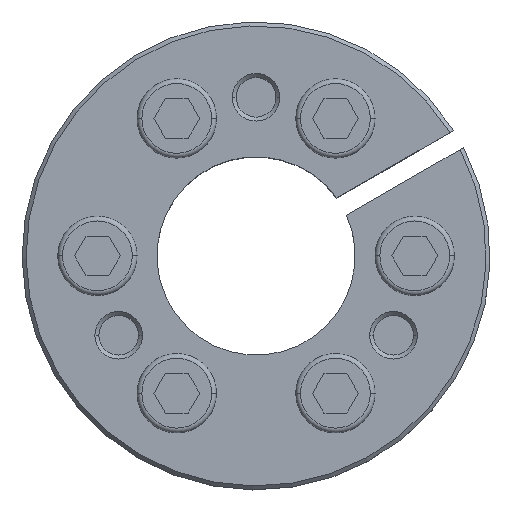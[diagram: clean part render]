
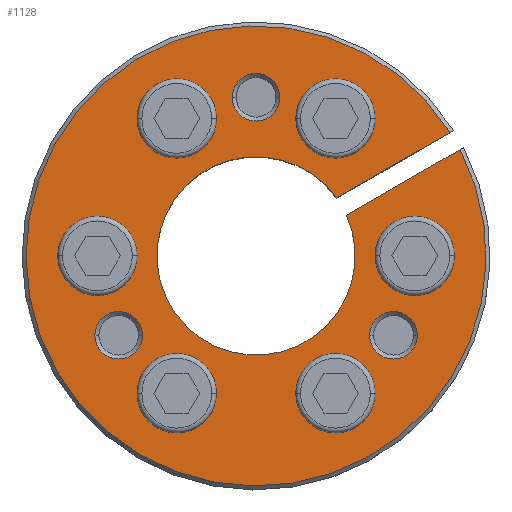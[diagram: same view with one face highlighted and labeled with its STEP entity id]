
A CAD part, top view. The second image highlights one B-rep face of the part: STEP entity #1128.
In plain terms, the highlighted planar face has unit normal (0, 0, 1).
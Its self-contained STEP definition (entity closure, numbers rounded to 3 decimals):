
#206=CARTESIAN_POINT('',(20.,0.,6.));
#207=DIRECTION('',(0.,0.,1.));
#208=DIRECTION('',(1.,0.,0.));
#209=AXIS2_PLACEMENT_3D('',#206,#207,#208);
#214=CARTESIAN_POINT('',(20.,0.,6.));
#215=DIRECTION('',(0.,0.,1.));
#216=DIRECTION('',(-1.,0.,0.));
#217=AXIS2_PLACEMENT_3D('',#214,#215,#216);
#222=CARTESIAN_POINT('',(10.,17.321,6.));
#223=DIRECTION('',(0.,0.,1.));
#224=DIRECTION('',(1.,0.,0.));
#225=AXIS2_PLACEMENT_3D('',#222,#223,#224);
#230=CARTESIAN_POINT('',(10.,17.321,6.));
#231=DIRECTION('',(0.,0.,1.));
#232=DIRECTION('',(-1.,0.,0.));
#233=AXIS2_PLACEMENT_3D('',#230,#231,#232);
#238=CARTESIAN_POINT('',(-10.,17.321,6.));
#239=DIRECTION('',(0.,0.,1.));
#240=DIRECTION('',(1.,0.,0.));
#241=AXIS2_PLACEMENT_3D('',#238,#239,#240);
#246=CARTESIAN_POINT('',(-10.,17.321,6.));
#247=DIRECTION('',(0.,0.,1.));
#248=DIRECTION('',(-1.,0.,0.));
#249=AXIS2_PLACEMENT_3D('',#246,#247,#248);
#254=CARTESIAN_POINT('',(-20.,0.,6.));
#255=DIRECTION('',(0.,0.,1.));
#256=DIRECTION('',(1.,0.,0.));
#257=AXIS2_PLACEMENT_3D('',#254,#255,#256);
#262=CARTESIAN_POINT('',(-20.,0.,6.));
#263=DIRECTION('',(0.,0.,1.));
#264=DIRECTION('',(-1.,0.,0.));
#265=AXIS2_PLACEMENT_3D('',#262,#263,#264);
#270=CARTESIAN_POINT('',(-10.,-17.321,6.));
#271=DIRECTION('',(0.,0.,1.));
#272=DIRECTION('',(1.,0.,0.));
#273=AXIS2_PLACEMENT_3D('',#270,#271,#272);
#278=CARTESIAN_POINT('',(-10.,-17.321,6.));
#279=DIRECTION('',(0.,0.,1.));
#280=DIRECTION('',(-1.,0.,0.));
#281=AXIS2_PLACEMENT_3D('',#278,#279,#280);
#286=CARTESIAN_POINT('',(10.,-17.321,6.));
#287=DIRECTION('',(0.,0.,1.));
#288=DIRECTION('',(1.,0.,0.));
#289=AXIS2_PLACEMENT_3D('',#286,#287,#288);
#294=CARTESIAN_POINT('',(10.,-17.321,6.));
#295=DIRECTION('',(0.,0.,1.));
#296=DIRECTION('',(-1.,0.,0.));
#297=AXIS2_PLACEMENT_3D('',#294,#295,#296);
#302=CARTESIAN_POINT('',(0.,20.,6.));
#303=DIRECTION('',(0.,0.,-1.));
#304=DIRECTION('',(-1.,0.,0.));
#305=AXIS2_PLACEMENT_3D('',#302,#303,#304);
#310=CARTESIAN_POINT('',(0.,20.,6.));
#311=DIRECTION('',(0.,0.,-1.));
#312=DIRECTION('',(1.,0.,0.));
#313=AXIS2_PLACEMENT_3D('',#310,#311,#312);
#318=CARTESIAN_POINT('',(-17.321,-10.,6.));
#319=DIRECTION('',(0.,0.,-1.));
#320=DIRECTION('',(-1.,0.,0.));
#321=AXIS2_PLACEMENT_3D('',#318,#319,#320);
#326=CARTESIAN_POINT('',(-17.321,-10.,6.));
#327=DIRECTION('',(0.,0.,-1.));
#328=DIRECTION('',(1.,0.,0.));
#329=AXIS2_PLACEMENT_3D('',#326,#327,#328);
#334=CARTESIAN_POINT('',(17.321,-10.,6.));
#335=DIRECTION('',(0.,0.,-1.));
#336=DIRECTION('',(-1.,0.,0.));
#337=AXIS2_PLACEMENT_3D('',#334,#335,#336);
#342=CARTESIAN_POINT('',(17.321,-10.,6.));
#343=DIRECTION('',(0.,0.,-1.));
#344=DIRECTION('',(1.,0.,0.));
#345=AXIS2_PLACEMENT_3D('',#342,#343,#344);
#350=DIRECTION('',(0.866,0.5,0.));
#351=VECTOR('',#350,16.536);
#352=CARTESIAN_POINT('',(11.396,5.136,6.));
#353=LINE('',#352,#351);
#357=DIRECTION('',(-0.866,-0.5,0.));
#358=VECTOR('',#357,16.536);
#359=CARTESIAN_POINT('',(24.466,15.569,6.));
#360=LINE('',#359,#358);
#670=CARTESIAN_POINT('',(0.,0.,6.));
#671=DIRECTION('',(0.,0.,-1.));
#672=DIRECTION('',(0.912,0.411,0.));
#673=AXIS2_PLACEMENT_3D('',#670,#671,#672);
#718=CARTESIAN_POINT('',(0.,0.,6.));
#719=DIRECTION('',(0.,0.,1.));
#720=DIRECTION('',(0.844,0.537,0.));
#721=AXIS2_PLACEMENT_3D('',#718,#719,#720);
#822=CARTESIAN_POINT('',(23.25,0.,6.));
#823=CARTESIAN_POINT('',(16.75,0.,6.));
#824=VERTEX_POINT('',#822);
#825=VERTEX_POINT('',#823);
#830=CARTESIAN_POINT('',(13.25,17.321,6.));
#831=CARTESIAN_POINT('',(6.75,17.321,6.));
#832=VERTEX_POINT('',#830);
#833=VERTEX_POINT('',#831);
#838=CARTESIAN_POINT('',(-6.75,17.321,6.));
#839=CARTESIAN_POINT('',(-13.25,17.321,6.));
#840=VERTEX_POINT('',#838);
#841=VERTEX_POINT('',#839);
#846=CARTESIAN_POINT('',(-16.75,0.,6.));
#847=CARTESIAN_POINT('',(-23.25,0.,6.));
#848=VERTEX_POINT('',#846);
#849=VERTEX_POINT('',#847);
#854=CARTESIAN_POINT('',(-6.75,-17.321,6.));
#855=CARTESIAN_POINT('',(-13.25,-17.321,6.));
#856=VERTEX_POINT('',#854);
#857=VERTEX_POINT('',#855);
#862=CARTESIAN_POINT('',(13.25,-17.321,6.));
#863=CARTESIAN_POINT('',(6.75,-17.321,6.));
#864=VERTEX_POINT('',#862);
#865=VERTEX_POINT('',#863);
#870=CARTESIAN_POINT('',(-3.,20.,6.));
#871=CARTESIAN_POINT('',(3.,20.,6.));
#872=VERTEX_POINT('',#870);
#873=VERTEX_POINT('',#871);
#886=CARTESIAN_POINT('',(-20.321,-10.,6.));
#887=CARTESIAN_POINT('',(-14.321,-10.,6.));
#888=VERTEX_POINT('',#886);
#889=VERTEX_POINT('',#887);
#902=CARTESIAN_POINT('',(14.321,-10.,6.));
#903=CARTESIAN_POINT('',(20.321,-10.,6.));
#904=VERTEX_POINT('',#902);
#905=VERTEX_POINT('',#903);
#918=CARTESIAN_POINT('',(11.396,5.136,6.));
#919=CARTESIAN_POINT('',(25.716,13.404,6.));
#920=VERTEX_POINT('',#918);
#921=VERTEX_POINT('',#919);
#922=CARTESIAN_POINT('',(24.466,15.569,6.));
#923=CARTESIAN_POINT('',(10.146,7.301,6.));
#924=VERTEX_POINT('',#922);
#925=VERTEX_POINT('',#923);
#1060=CARTESIAN_POINT('',(0.,0.,6.));
#1061=DIRECTION('',(0.,0.,-1.));
#1062=DIRECTION('',(0.,-1.,0.));
#1063=AXIS2_PLACEMENT_3D('',#1060,#1061,#1062);
#1064=PLANE('',#1063);
#1066=ORIENTED_EDGE('',*,*,#1065,.T.);
#1068=ORIENTED_EDGE('',*,*,#1067,.F.);
#1070=ORIENTED_EDGE('',*,*,#1069,.T.);
#1072=ORIENTED_EDGE('',*,*,#1071,.F.);
#1073=EDGE_LOOP('',(#1066,#1068,#1070,#1072));
#1074=FACE_OUTER_BOUND('',#1073,.F.);
#1075=ORIENTED_EDGE('',*,*,#1050,.T.);
#1077=ORIENTED_EDGE('',*,*,#1076,.T.);
#1078=EDGE_LOOP('',(#1075,#1077));
#1079=FACE_BOUND('',#1078,.F.);
#1081=ORIENTED_EDGE('',*,*,#1080,.T.);
#1083=ORIENTED_EDGE('',*,*,#1082,.T.);
#1084=EDGE_LOOP('',(#1081,#1083));
#1085=FACE_BOUND('',#1084,.F.);
#1087=ORIENTED_EDGE('',*,*,#1086,.T.);
#1089=ORIENTED_EDGE('',*,*,#1088,.T.);
#1090=EDGE_LOOP('',(#1087,#1089));
#1091=FACE_BOUND('',#1090,.F.);
#1093=ORIENTED_EDGE('',*,*,#1092,.T.);
#1095=ORIENTED_EDGE('',*,*,#1094,.T.);
#1096=EDGE_LOOP('',(#1093,#1095));
#1097=FACE_BOUND('',#1096,.F.);
#1099=ORIENTED_EDGE('',*,*,#1098,.T.);
#1101=ORIENTED_EDGE('',*,*,#1100,.T.);
#1102=EDGE_LOOP('',(#1099,#1101));
#1103=FACE_BOUND('',#1102,.F.);
#1105=ORIENTED_EDGE('',*,*,#1104,.T.);
#1107=ORIENTED_EDGE('',*,*,#1106,.T.);
#1108=EDGE_LOOP('',(#1105,#1107));
#1109=FACE_BOUND('',#1108,.F.);
#1111=ORIENTED_EDGE('',*,*,#1110,.F.);
#1113=ORIENTED_EDGE('',*,*,#1112,.F.);
#1114=EDGE_LOOP('',(#1111,#1113));
#1115=FACE_BOUND('',#1114,.F.);
#1117=ORIENTED_EDGE('',*,*,#1116,.F.);
#1119=ORIENTED_EDGE('',*,*,#1118,.F.);
#1120=EDGE_LOOP('',(#1117,#1119));
#1121=FACE_BOUND('',#1120,.F.);
#1123=ORIENTED_EDGE('',*,*,#1122,.F.);
#1125=ORIENTED_EDGE('',*,*,#1124,.F.);
#1126=EDGE_LOOP('',(#1123,#1125));
#1127=FACE_BOUND('',#1126,.F.);
#1128=ADVANCED_FACE('',(#1074,#1079,#1085,#1091,#1097,#1103,#1109,#1115,#1121,
#1127),#1064,.F.);
#210=CIRCLE('',#209,3.25);
#218=CIRCLE('',#217,3.25);
#226=CIRCLE('',#225,3.25);
#234=CIRCLE('',#233,3.25);
#242=CIRCLE('',#241,3.25);
#250=CIRCLE('',#249,3.25);
#258=CIRCLE('',#257,3.25);
#266=CIRCLE('',#265,3.25);
#274=CIRCLE('',#273,3.25);
#282=CIRCLE('',#281,3.25);
#290=CIRCLE('',#289,3.25);
#298=CIRCLE('',#297,3.25);
#306=CIRCLE('',#305,3.);
#314=CIRCLE('',#313,3.);
#322=CIRCLE('',#321,3.);
#330=CIRCLE('',#329,3.);
#338=CIRCLE('',#337,3.);
#346=CIRCLE('',#345,3.);
#674=CIRCLE('',#673,12.5);
#722=CIRCLE('',#721,29.);
#1050=EDGE_CURVE('',#824,#825,#210,.T.);
#1065=EDGE_CURVE('',#920,#921,#353,.T.);
#1067=EDGE_CURVE('',#924,#921,#722,.T.);
#1069=EDGE_CURVE('',#924,#925,#360,.T.);
#1071=EDGE_CURVE('',#920,#925,#674,.T.);
#1076=EDGE_CURVE('',#825,#824,#218,.T.);
#1080=EDGE_CURVE('',#832,#833,#226,.T.);
#1082=EDGE_CURVE('',#833,#832,#234,.T.);
#1086=EDGE_CURVE('',#840,#841,#242,.T.);
#1088=EDGE_CURVE('',#841,#840,#250,.T.);
#1092=EDGE_CURVE('',#848,#849,#258,.T.);
#1094=EDGE_CURVE('',#849,#848,#266,.T.);
#1098=EDGE_CURVE('',#856,#857,#274,.T.);
#1100=EDGE_CURVE('',#857,#856,#282,.T.);
#1104=EDGE_CURVE('',#864,#865,#290,.T.);
#1106=EDGE_CURVE('',#865,#864,#298,.T.);
#1110=EDGE_CURVE('',#872,#873,#306,.T.);
#1112=EDGE_CURVE('',#873,#872,#314,.T.);
#1116=EDGE_CURVE('',#888,#889,#322,.T.);
#1118=EDGE_CURVE('',#889,#888,#330,.T.);
#1122=EDGE_CURVE('',#904,#905,#338,.T.);
#1124=EDGE_CURVE('',#905,#904,#346,.T.);
